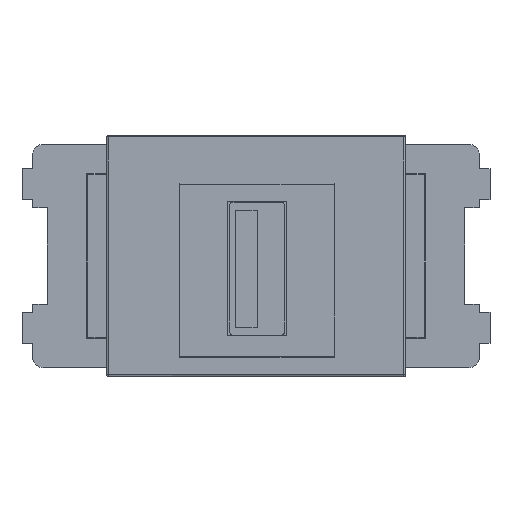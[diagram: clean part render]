
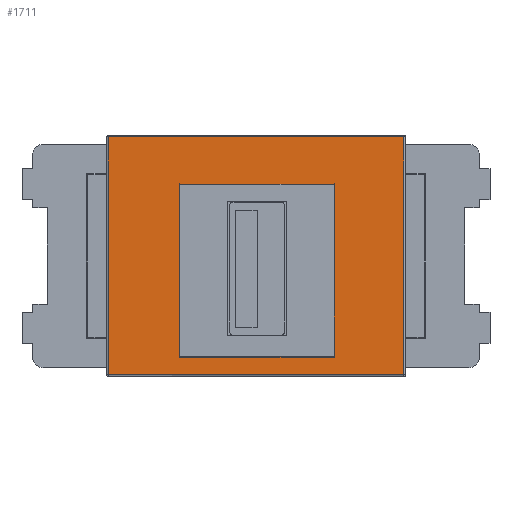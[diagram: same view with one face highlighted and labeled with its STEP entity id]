
A CAD part, top view. The second image highlights one B-rep face of the part: STEP entity #1711.
In plain terms, the highlighted free-form (B-spline) face has degree [1, 1] with [2, 2] control points.
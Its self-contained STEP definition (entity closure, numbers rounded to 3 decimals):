
#466 = VERTEX_POINT('',#467);
#467 = CARTESIAN_POINT('',(13.885,-11.175,10.85));
#537 = VERTEX_POINT('',#538);
#538 = CARTESIAN_POINT('',(-13.885,-11.175,10.85));
#608 = VERTEX_POINT('',#609);
#609 = CARTESIAN_POINT('',(13.885,11.175,10.85));
#689 = EDGE_CURVE('',#608,#466,#690,.T.);
#690 = B_SPLINE_CURVE_WITH_KNOTS('',5,(#691,#692,#693,#694,#695,#696),
  .UNSPECIFIED.,.F.,.F.,(6,6),(0.,22.35),.PIECEWISE_BEZIER_KNOTS.);
#691 = CARTESIAN_POINT('',(13.885,11.175,10.85));
#692 = CARTESIAN_POINT('',(13.885,6.705,10.85));
#693 = CARTESIAN_POINT('',(13.885,2.235,10.85));
#694 = CARTESIAN_POINT('',(13.885,-2.235,10.85));
#695 = CARTESIAN_POINT('',(13.885,-6.705,10.85));
#696 = CARTESIAN_POINT('',(13.885,-11.175,10.85));
#762 = VERTEX_POINT('',#763);
#763 = CARTESIAN_POINT('',(-13.885,11.175,10.85));
#843 = EDGE_CURVE('',#762,#608,#844,.T.);
#844 = B_SPLINE_CURVE_WITH_KNOTS('',5,(#845,#846,#847,#848,#849,#850),
  .UNSPECIFIED.,.F.,.F.,(6,6),(0.,27.77),.PIECEWISE_BEZIER_KNOTS.);
#845 = CARTESIAN_POINT('',(-13.885,11.175,10.85));
#846 = CARTESIAN_POINT('',(-8.331,11.175,10.85));
#847 = CARTESIAN_POINT('',(-2.777,11.175,10.85));
#848 = CARTESIAN_POINT('',(2.777,11.175,10.85));
#849 = CARTESIAN_POINT('',(8.331,11.175,10.85));
#850 = CARTESIAN_POINT('',(13.885,11.175,10.85));
#926 = EDGE_CURVE('',#537,#762,#927,.T.);
#927 = B_SPLINE_CURVE_WITH_KNOTS('',5,(#928,#929,#930,#931,#932,#933),
  .UNSPECIFIED.,.F.,.F.,(6,6),(0.,22.35),.PIECEWISE_BEZIER_KNOTS.);
#928 = CARTESIAN_POINT('',(-13.885,-11.175,10.85));
#929 = CARTESIAN_POINT('',(-13.885,-6.705,10.85));
#930 = CARTESIAN_POINT('',(-13.885,-2.235,10.85));
#931 = CARTESIAN_POINT('',(-13.885,2.235,10.85));
#932 = CARTESIAN_POINT('',(-13.885,6.705,10.85));
#933 = CARTESIAN_POINT('',(-13.885,11.175,10.85));
#1009 = EDGE_CURVE('',#466,#537,#1010,.T.);
#1010 = B_SPLINE_CURVE_WITH_KNOTS('',5,(#1011,#1012,#1013,#1014,#1015,
    #1016),.UNSPECIFIED.,.F.,.F.,(6,6),(0.,27.77),
  .PIECEWISE_BEZIER_KNOTS.);
#1011 = CARTESIAN_POINT('',(13.885,-11.175,10.85));
#1012 = CARTESIAN_POINT('',(8.331,-11.175,10.85));
#1013 = CARTESIAN_POINT('',(2.777,-11.175,10.85));
#1014 = CARTESIAN_POINT('',(-2.777,-11.175,10.85));
#1015 = CARTESIAN_POINT('',(-8.331,-11.175,10.85));
#1016 = CARTESIAN_POINT('',(-13.885,-11.175,10.85));
#1711 = ADVANCED_FACE('',(#1712,#1718),#1764,.F.);
#1712 = FACE_BOUND('',#1713,.F.);
#1713 = EDGE_LOOP('',(#1714,#1715,#1716,#1717));
#1714 = ORIENTED_EDGE('',*,*,#1009,.T.);
#1715 = ORIENTED_EDGE('',*,*,#926,.T.);
#1716 = ORIENTED_EDGE('',*,*,#843,.T.);
#1717 = ORIENTED_EDGE('',*,*,#689,.T.);
#1718 = FACE_BOUND('',#1719,.F.);
#1719 = EDGE_LOOP('',(#1720,#1733,#1744,#1755));
#1720 = ORIENTED_EDGE('',*,*,#1721,.T.);
#1721 = EDGE_CURVE('',#1722,#1724,#1726,.T.);
#1722 = VERTEX_POINT('',#1723);
#1723 = CARTESIAN_POINT('',(-7.188,-9.51,10.85));
#1724 = VERTEX_POINT('',#1725);
#1725 = CARTESIAN_POINT('',(7.352,-9.51,10.85));
#1726 = B_SPLINE_CURVE_WITH_KNOTS('',5,(#1727,#1728,#1729,#1730,#1731,
    #1732),.UNSPECIFIED.,.F.,.F.,(6,6),(0.,14.54),
  .PIECEWISE_BEZIER_KNOTS.);
#1727 = CARTESIAN_POINT('',(-7.188,-9.51,10.85));
#1728 = CARTESIAN_POINT('',(-4.28,-9.51,10.85));
#1729 = CARTESIAN_POINT('',(-1.372,-9.51,10.85));
#1730 = CARTESIAN_POINT('',(1.536,-9.51,10.85));
#1731 = CARTESIAN_POINT('',(4.444,-9.51,10.85));
#1732 = CARTESIAN_POINT('',(7.352,-9.51,10.85));
#1733 = ORIENTED_EDGE('',*,*,#1734,.T.);
#1734 = EDGE_CURVE('',#1724,#1735,#1737,.T.);
#1735 = VERTEX_POINT('',#1736);
#1736 = CARTESIAN_POINT('',(7.352,6.71,10.85));
#1737 = B_SPLINE_CURVE_WITH_KNOTS('',5,(#1738,#1739,#1740,#1741,#1742,
    #1743),.UNSPECIFIED.,.F.,.F.,(6,6),(0.,16.22),
  .PIECEWISE_BEZIER_KNOTS.);
#1738 = CARTESIAN_POINT('',(7.352,-9.51,10.85));
#1739 = CARTESIAN_POINT('',(7.352,-6.266,10.85));
#1740 = CARTESIAN_POINT('',(7.352,-3.022,10.85));
#1741 = CARTESIAN_POINT('',(7.352,0.222,10.85));
#1742 = CARTESIAN_POINT('',(7.352,3.466,10.85));
#1743 = CARTESIAN_POINT('',(7.352,6.71,10.85));
#1744 = ORIENTED_EDGE('',*,*,#1745,.T.);
#1745 = EDGE_CURVE('',#1735,#1746,#1748,.T.);
#1746 = VERTEX_POINT('',#1747);
#1747 = CARTESIAN_POINT('',(-7.188,6.71,10.85));
#1748 = B_SPLINE_CURVE_WITH_KNOTS('',5,(#1749,#1750,#1751,#1752,#1753,
    #1754),.UNSPECIFIED.,.F.,.F.,(6,6),(0.,14.54),
  .PIECEWISE_BEZIER_KNOTS.);
#1749 = CARTESIAN_POINT('',(7.352,6.71,10.85));
#1750 = CARTESIAN_POINT('',(4.444,6.71,10.85));
#1751 = CARTESIAN_POINT('',(1.536,6.71,10.85));
#1752 = CARTESIAN_POINT('',(-1.372,6.71,10.85));
#1753 = CARTESIAN_POINT('',(-4.28,6.71,10.85));
#1754 = CARTESIAN_POINT('',(-7.188,6.71,10.85));
#1755 = ORIENTED_EDGE('',*,*,#1756,.T.);
#1756 = EDGE_CURVE('',#1746,#1722,#1757,.T.);
#1757 = B_SPLINE_CURVE_WITH_KNOTS('',5,(#1758,#1759,#1760,#1761,#1762,
    #1763),.UNSPECIFIED.,.F.,.F.,(6,6),(0.,16.22),
  .PIECEWISE_BEZIER_KNOTS.);
#1758 = CARTESIAN_POINT('',(-7.188,6.71,10.85));
#1759 = CARTESIAN_POINT('',(-7.188,3.466,10.85));
#1760 = CARTESIAN_POINT('',(-7.188,0.222,10.85));
#1761 = CARTESIAN_POINT('',(-7.188,-3.022,10.85));
#1762 = CARTESIAN_POINT('',(-7.188,-6.266,10.85));
#1763 = CARTESIAN_POINT('',(-7.188,-9.51,10.85));
#1764 = B_SPLINE_SURFACE_WITH_KNOTS('',1,1,(
    (#1765,#1766)
    ,(#1767,#1768
    )),.UNSPECIFIED.,.F.,.F.,.F.,(2,2),(2,2),(0.,1.243),(0.,1.)
  ,.PIECEWISE_BEZIER_KNOTS.);
#1765 = CARTESIAN_POINT('',(-13.885,11.175,10.85));
#1766 = CARTESIAN_POINT('',(-13.885,-11.175,10.85));
#1767 = CARTESIAN_POINT('',(13.885,11.175,10.85));
#1768 = CARTESIAN_POINT('',(13.885,-11.175,10.85));
